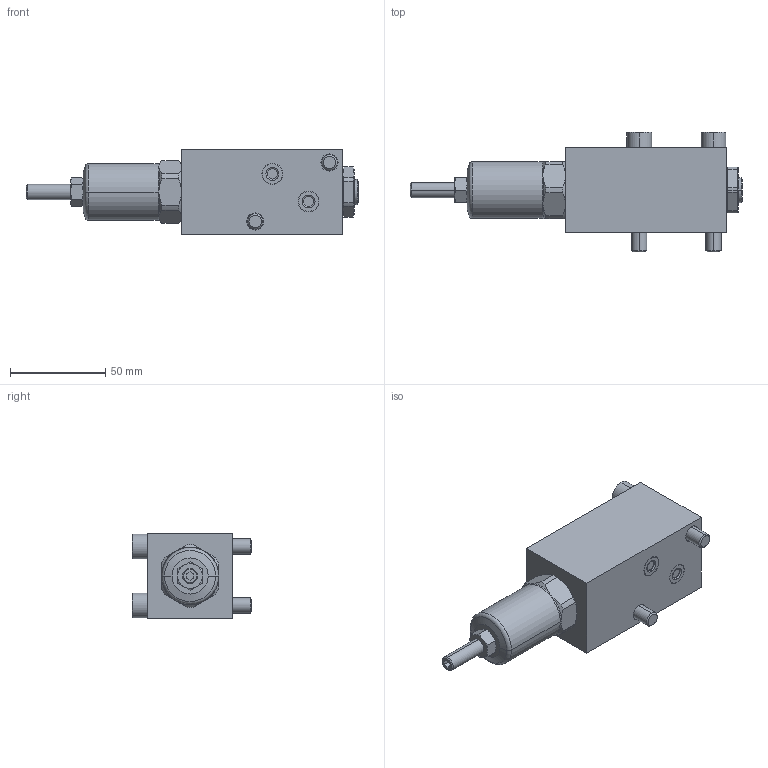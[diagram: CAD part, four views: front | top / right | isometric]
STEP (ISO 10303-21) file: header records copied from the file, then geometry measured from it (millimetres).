
FILE_DESCRIPTION(/* description */ (''),/* implementation_level */ '2;1');
FILE_NAME(/* name */ 'BGM022-B.stp',/* time_stamp */ '2024-10-24T09:29:47+08:00',/* author */ (''),/* organization */ (''),/* preprocessor_version */ 'ST-DEVELOPER v16.7',/* originating_system */ 'SIEMENS PLM Software NX 12.0',/* authorisation */ '');
FILE_SCHEMA (('AP203_CONFIGURATION_CONTROLLED_3D_DESIGN_OF_MECHANICAL_PARTS_AND_ASSEMBLIES_MIM_LF { 1 0 10303 403 2 1 2}'));
Length unit declared in the file: millimetre
Products named in the file (7): BGM022-B-5; BGM022-B-4; BGM022-B-6; BGM022-B-2; BGM022-B-1; BGM022-B-3; BMA20x0-0G_rev1_step
Assembly tree (8 placements, depth 2):
  BMA20x0-0G_rev1_step
    BGM022-B-3  x2
    BGM022-B-1
    BGM022-B-2
    BGM022-B-6  x2
    BGM022-B-4
    BGM022-B-5
Bounding box: 174.5 x 63 x 45 mm (x, y, z)
Volume: 213050.4 mm3; surface area: 35111.4 mm2
Topology: 8 solids, 8 shells, 212 faces, 483 edges, 293 vertices
Faces by surface type: plane 83, cone 58, cylinder 43, torus 28
Entity records: 5839 total; most frequent: CARTESIAN_POINT 1049, DIRECTION 859, ORIENTED_EDGE 794, EDGE_CURVE 397, AXIS2_PLACEMENT_3D 348, VERTEX_POINT 246, EDGE_LOOP 191, ADVANCED_FACE 173
